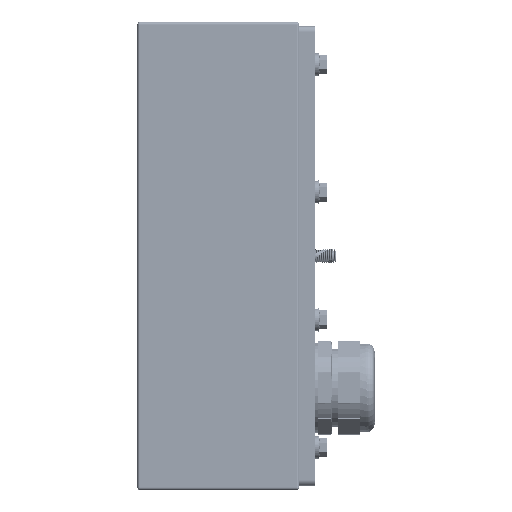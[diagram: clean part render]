
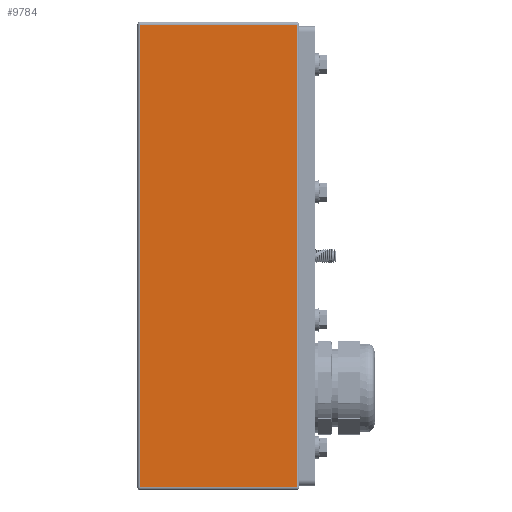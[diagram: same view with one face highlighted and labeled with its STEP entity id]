
A CAD part, left-side view. The second image highlights one B-rep face of the part: STEP entity #9784.
In plain terms, the highlighted planar face has unit normal (-1, 0, 0).
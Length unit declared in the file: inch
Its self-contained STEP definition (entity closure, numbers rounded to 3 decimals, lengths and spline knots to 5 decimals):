
#1034 = VECTOR ( 'NONE', #8478, 39.37008 ) ;
#1171 = EDGE_CURVE ( 'NONE', #41024, #3096, #32143, .T. ) ;
#1183 = DIRECTION ( 'NONE',  ( 0., 0., 1. ) ) ;
#1423 = DIRECTION ( 'NONE',  ( 0., -1., 0. ) ) ;
#2543 = CARTESIAN_POINT ( 'NONE',  ( -1.9, 3.8, -0.06 ) ) ;
#2978 = CARTESIAN_POINT ( 'NONE',  ( -1.9, 3.8, -11. ) ) ;
#3096 = VERTEX_POINT ( 'NONE', #8403 ) ;
#4398 = VERTEX_POINT ( 'NONE', #14591 ) ;
#6266 = DIRECTION ( 'NONE',  ( 0., 0., -1. ) ) ;
#7341 = LINE ( 'NONE', #17465, #35039 ) ;
#8403 = CARTESIAN_POINT ( 'NONE',  ( -1.9, 3.74, -10.94 ) ) ;
#8478 = DIRECTION ( 'NONE',  ( 0., 1., 0. ) ) ;
#8713 = VERTEX_POINT ( 'NONE', #32186 ) ;
#9034 = DIRECTION ( 'NONE',  ( 0., 0., -1. ) ) ;
#9784 = ADVANCED_FACE ( 'NONE', ( #39996 ), #33560, .F. ) ;
#10920 = EDGE_CURVE ( 'NONE', #4398, #41024, #39345, .T. ) ;
#12038 = VECTOR ( 'NONE', #9034, 39.37008 ) ;
#14591 = CARTESIAN_POINT ( 'NONE',  ( -1.9, 0.06, -0.06 ) ) ;
#17465 = CARTESIAN_POINT ( 'NONE',  ( -1.9, 3.8, -10.94 ) ) ;
#17860 = CARTESIAN_POINT ( 'NONE',  ( -1.9, 0.06, -11. ) ) ;
#18782 = AXIS2_PLACEMENT_3D ( 'NONE', #2978, #39782, #6266 ) ;
#20478 = ORIENTED_EDGE ( 'NONE', *, *, #1171, .T. ) ;
#20512 = VECTOR ( 'NONE', #1183, 39.37008 ) ;
#22777 = CARTESIAN_POINT ( 'NONE',  ( -1.9, 3.74, -0.06 ) ) ;
#23612 = ORIENTED_EDGE ( 'NONE', *, *, #28784, .T. ) ;
#28784 = EDGE_CURVE ( 'NONE', #3096, #8713, #7341, .T. ) ;
#31745 = LINE ( 'NONE', #17860, #20512 ) ;
#32143 = LINE ( 'NONE', #39234, #12038 ) ;
#32186 = CARTESIAN_POINT ( 'NONE',  ( -1.9, 0.06, -10.94 ) ) ;
#33560 = PLANE ( 'NONE',  #18782 ) ;
#35039 = VECTOR ( 'NONE', #1423, 39.37008 ) ;
#36195 = EDGE_CURVE ( 'NONE', #8713, #4398, #31745, .T. ) ;
#37615 = ORIENTED_EDGE ( 'NONE', *, *, #36195, .T. ) ;
#38073 = EDGE_LOOP ( 'NONE', ( #20478, #23612, #37615, #41543 ) ) ;
#39234 = CARTESIAN_POINT ( 'NONE',  ( -1.9, 3.74, -11. ) ) ;
#39345 = LINE ( 'NONE', #2543, #1034 ) ;
#39782 = DIRECTION ( 'NONE',  ( 1., 0., 0. ) ) ;
#39996 = FACE_OUTER_BOUND ( 'NONE', #38073, .T. ) ;
#41024 = VERTEX_POINT ( 'NONE', #22777 ) ;
#41543 = ORIENTED_EDGE ( 'NONE', *, *, #10920, .T. ) ;
